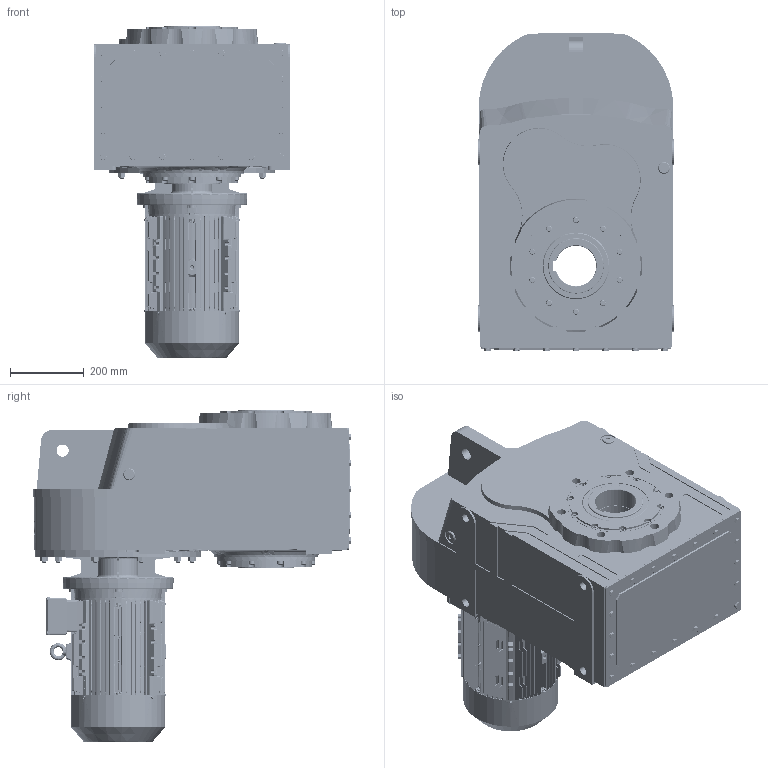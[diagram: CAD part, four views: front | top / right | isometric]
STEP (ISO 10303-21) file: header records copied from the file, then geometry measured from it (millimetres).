
FILE_DESCRIPTION (( 'STEP AP203' ), '1' );
FILE_NAME ('DV_873_0_MX3-132M.STEP', '2018-11-16T08:39:02', ( '' ), ( '' ), 'SwSTEP 2.0', 'SolidWorks 2012', '' );
FILE_SCHEMA (( 'CONFIG_CONTROL_DESIGN' ));
Products named in the file (25): hexagon flange head tapping screws gb_GB_SQUARE_AND_HEXAGON_TYPE137 ST4.2X9.5 C-N; cross recessed pan head screws gb_GB_CROSS_SCREWS_TYPE1 M5X12-12  H type-N_1; DV_873_0_MX3-132M; MX3-132M_B5; circlips for shaft--type a large gb_GB_CONNECTING_PIECE_RING_RRA 28; spring lock washers--normal type gb_GB_FASTENER_WASHER_SW 8_1; hex nuts, style 1-grades ab gb_GB_FASTENER_NUT_SNAB1 M8-N; hexagon socket head cap screws gb_GB_FASTENER_SCREWS_HSHCS M8X40-N_1; eyebolts gb_GB_FASTENER_SCREWS_FRS M10-N_1; hexagon socket head cap screws gb_GB_FASTENER_SCREWS_HSHCS M8X45-N; 132M B5ﾂ-ｩﾃ; 132〩仁佞怔; -戌呲25; plain parallel keys_GB_CONNECTING_PIECE_KEYS_CSK 10X70_1; ﾋ-ﾀﾔ40X58X7; 132 瞬++-4; 132ÀþiÍ; 132〩仁佞蹉峔; deep groove ball bearings gb_Rolling bearings 6308 GB 276-94_1; ML23A_Varsayìlan; 132M B5+ｷ+ﾃ; 132M 俓; 132B3ﾂ-ｩﾃ; 83B132B5_Varsayìlan; D873_Varsayìlan
Assembly tree (52 placements, depth 3):
  DV_873_0_MX3-132M
    D873_Varsayìlan
    83B132B5_Varsayìlan
    ML23A_Varsayìlan
    MX3-132M_B5
      132M B5+ｷ+ﾃ
      132B3ﾂ-ｩﾃ
      132M 俓
      deep groove ball bearings gb_Rolling bearings 6308 GB 276-94_1  x2
      132 瞬++-4
      132ÀþiÍ
      132〩仁佞蹉峔
      132〩仁佞怔
      -戌呲25  x2
      ﾋ-ﾀﾔ40X58X7
      plain parallel keys_GB_CONNECTING_PIECE_KEYS_CSK 10X70_1
      eyebolts gb_GB_FASTENER_SCREWS_FRS M10-N_1
      132M B5ﾂ-ｩﾃ
      hexagon socket head cap screws gb_GB_FASTENER_SCREWS_HSHCS M8X45-N  x4
      spring lock washers--normal type gb_GB_FASTENER_WASHER_SW 8_1  x8
      hex nuts, style 1-grades ab gb_GB_FASTENER_NUT_SNAB1 M8-N  x7
      hexagon socket head cap screws gb_GB_FASTENER_SCREWS_HSHCS M8X40-N_1  x5
      circlips for shaft--type a large gb_GB_CONNECTING_PIECE_RING_RRA 28
      hexagon flange head tapping screws gb_GB_SQUARE_AND_HEXAGON_TYPE137 ST4.2X9.5 C-N  x4
      cross recessed pan head screws gb_GB_CROSS_SCREWS_TYPE1 M5X12-12  H type-N_1  x4
Bounding box: 530 x 859.22 x 897.62 mm (x, y, z)
Volume: 136900554.1 mm3; surface area: 4975954.9 mm2
Topology: 77 solids, 79 shells, 9301 faces, 23770 edges, 14561 vertices
Faces by surface type: plane 3280, cylinder 2375, bspline 2158, cone 968, torus 382, sphere 138
Entity records: 342646 total; most frequent: CARTESIAN_POINT 148227, ORIENTED_EDGE 43466, DIRECTION 34805, EDGE_CURVE 21733, VERTEX_POINT 13406, AXIS2_PLACEMENT_3D 12846, EDGE_LOOP 9399, LINE 9113
